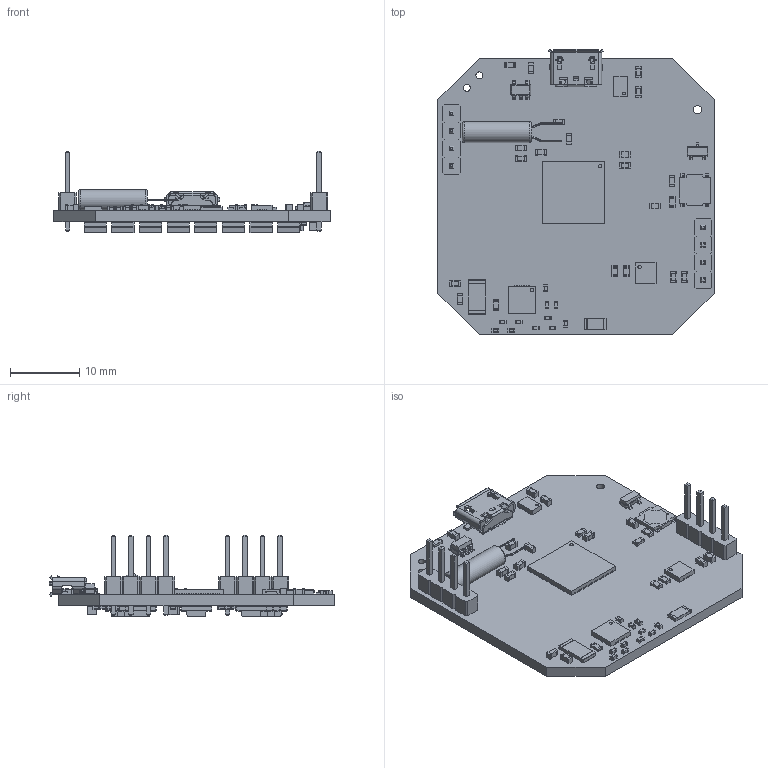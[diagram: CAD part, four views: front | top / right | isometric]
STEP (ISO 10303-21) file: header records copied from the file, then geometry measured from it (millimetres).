
FILE_DESCRIPTION(('KiCad electronic assembly'),'2;1');
FILE_NAME('ledwatch.step','2018-12-23T23:10:49',('An Author'),( 'A Company'),'Open CASCADE STEP processor 7.3', 'KiCad to STEP converter','Unknown');
FILE_SCHEMA(('AUTOMOTIVE_DESIGN { 1 0 10303 214 1 1 1 1 }'));
Length unit declared in the file: millimetre
Products named in the file (38): Open CASCADE STEP translator 7.3 1; R_2010_5025Metric; SOLID; R_1206_3216Metric; C_0805_2012Metric; R_0402_1005Metric; C_0402_1005Metric; C_0603_1608Metric; R_0603_1608Metric; DFN-12-1EP_2x3mm_P0.45mm_EP0.64x2.4mm; QFN-12-1EP_3x3mm_P0.5mm_EP1.65x1.65mm; SOT-23-5; QFN-20-1EP_4x4mm_P0.5mm_EP2.5x2.5mm; TL3315NFxxxQ; PinHeader_1x04_P2.54mm_Vertical; Crystal_AT310_D3.0mm_L10.0mm_Vertical; QFN-64-1EP_9x9mm_P0.5mm_EP7.35x7.35mm; LED_1812_4532Metric; USB_Micro-B_Molex_47346-0001; SOT-23; COMPOUND
Assembly tree (118 placements, depth 3):
  Open CASCADE STEP translator 7.3 1
    R_2010_5025Metric
      SOLID
    R_1206_3216Metric
      SOLID
    C_0805_2012Metric  x3
      SOLID
    R_0402_1005Metric
      SOLID
    C_0402_1005Metric  x10
      SOLID
    C_0603_1608Metric  x14
      SOLID
    R_0603_1608Metric  x34
      SOLID
    DFN-12-1EP_2x3mm_P0.45mm_EP0.64x2.4mm
      SOLID
    QFN-12-1EP_3x3mm_P0.5mm_EP1.65x1.65mm
      SOLID
    SOT-23-5
      SOLID
    QFN-20-1EP_4x4mm_P0.5mm_EP2.5x2.5mm
      SOLID
    TL3315NFxxxQ
      SOLID
    PinHeader_1x04_P2.54mm_Vertical  x2
      SOLID
    Crystal_AT310_D3.0mm_L10.0mm_Vertical
      SOLID
    QFN-64-1EP_9x9mm_P0.5mm_EP7.35x7.35mm
      SOLID
    LED_1812_4532Metric  x24
      SOLID
    USB_Micro-B_Molex_47346-0001
      SOLID
    SOT-23
      SOLID
    COMPOUND
Bounding box: 40 x 41.32 x 11.74 mm (x, y, z)
Volume: 3245.6 mm3; surface area: 6057.5 mm2
Topology: 100 solids, 102 shells, 4715 faces, 12701 edges, 8270 vertices
Faces by surface type: plane 3488, cylinder 1148, bspline 56, sphere 12, torus 8, revolution 2, cone 1
Full cylindrical faces by diameter (mm): 0.4 x1, 0.5 x3, 1.016 x10, 1.2 x1, 3 x1
Entity records: 148936 total; most frequent: CARTESIAN_POINT 27480, DIRECTION 20222, LINE 14088, VECTOR 14088, ORIENTED_EDGE 10840, PCURVE 10840, DEFINITIONAL_REPRESENTATION 10840, EDGE_CURVE 5420
